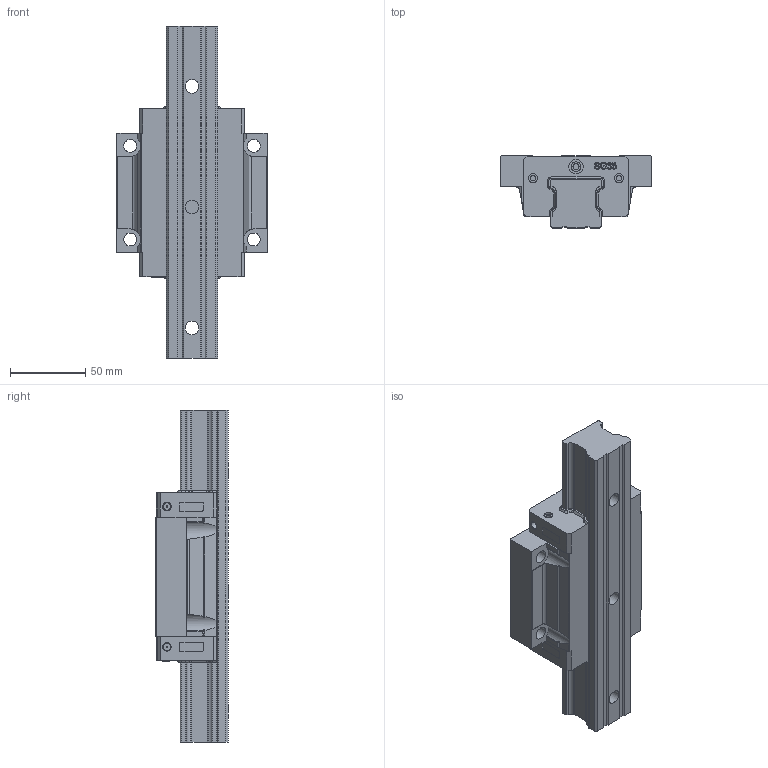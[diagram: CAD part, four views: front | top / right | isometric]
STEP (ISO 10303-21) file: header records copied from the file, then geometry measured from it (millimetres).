
FILE_DESCRIPTION(/* description */ (''),/* implementation_level */ '2;1');
FILE_NAME(/* name */ 'SGH35A.stp',/* time_stamp */ '2021-05-27T16:19:46+08:00',/* author */ (''),/* organization */ (''),/* preprocessor_version */ 'ST-DEVELOPER v15',/* originating_system */ 'SIEMENS PLM Software NX 8.5',/* authorisation */ '');
FILE_SCHEMA (('CONFIG_CONTROL_DESIGN'));
Length unit declared in the file: millimetre
Products named in the file (1): SGH35A
Bounding box: 100 x 48 x 220 mm (x, y, z)
Volume: 474646 mm3; surface area: 79980.2 mm2
Topology: 2 solids, 2 shells, 482 faces, 1317 edges, 876 vertices
Faces by surface type: plane 220, extrusion 122, cylinder 101, cone 39
Full cylindrical faces by diameter (mm): 1 x4, 3.5 x4, 4 x2, 5 x4, 6 x4, 6.5 x2, 8.5 x4, 9 x3, 9.5 x2, 14 x3
Entity records: 18000 total; most frequent: CARTESIAN_POINT 6253, ORIENTED_EDGE 2538, DIRECTION 2054, EDGE_CURVE 1269, VERTEX_POINT 871, VECTOR 818, LINE 696, AXIS2_PLACEMENT_3D 618
